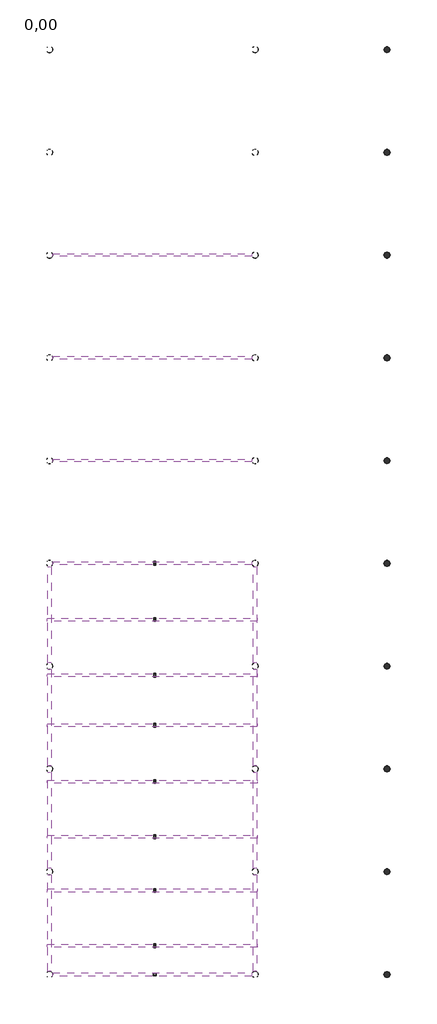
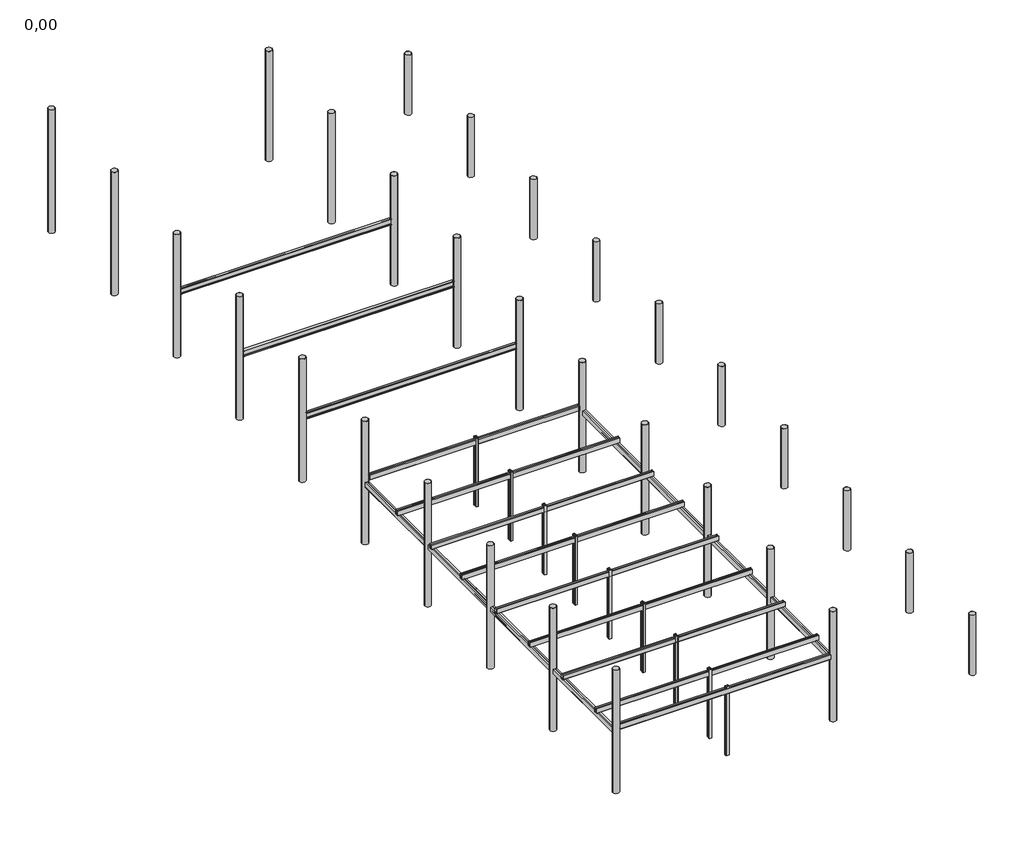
# One storey: 55 columns, 20 beams.
"""IFC4 building model written with IfcOpenShell, lengths in millimetres."""

from ifc_helpers import new_model, si_unit, origin, place, context, project, spatial, transform, mapped, element, save
from components import beam_2c_260_021a14dd, beam_2c_270e_83d6d2ef, beam_2c_270e_b8db1d55, i330pe_6d48d478, c120_7a4876d0, c120_c8b7eb78, c180_2d3c2f65, r355_6x10_7112e704, r355_6x10_451059c9, r355_6x10_06c2b0f0

model = new_model("IFC4")

# Units and contexts
model_context = context("Model", 3, world=origin())
ifc_project = project(units=[si_unit("LENGTHUNIT", "METRE", prefix="MILLI")], contexts=[model_context])

# Site, building, storey
site = spatial("IfcSite", under=ifc_project)
building = spatial("IfcBuilding", under=site)
storey = spatial("IfcBuildingStorey", under=building, Name="0,00", Elevation=0.0)

# Beams
placement = place(None, origin())
beam_2c_260_shape = beam_2c_260_021a14dd(model_context)
element("IfcBeam", 1, ObjectType="RPLN C - Ceowniki normalne_beamx2 : 2C 260", at=placement, inside=storey, context=model_context, shape_type="MappedRepresentation", body=[
    mapped(beam_2c_260_shape, transform((-2097.0111104, -35232.4816585, 3770.0), x_axis=(1.0, 0.0, 0.0), y_axis=(0.0, 1.0, 0.0), z_axis=(0.0, 0.0, 1.0))),
])
element("IfcBeam", 2, ObjectType="RPLN C - Ceowniki normalne_beamx2 : 2C 260", at=placement, inside=storey, context=model_context, shape_type="MappedRepresentation", body=[
    mapped(beam_2c_260_shape, transform((-2097.0111104, -32012.4816585, 3770.0), x_axis=(1.0, 0.0, 0.0), y_axis=(0.0, 1.0, 0.0), z_axis=(0.0, 0.0, 1.0))),
])
element("IfcBeam", 3, ObjectType="RPLN C - Ceowniki normalne_beamx2 : 2C 260", at=placement, inside=storey, context=model_context, shape_type="MappedRepresentation", body=[
    mapped(beam_2c_260_shape, transform((-2097.0111104, -28872.4816585, 3770.0), x_axis=(1.0, 0.0, 0.0), y_axis=(0.0, 1.0, 0.0), z_axis=(0.0, 0.0, 1.0))),
])
element("IfcBeam", 4, ObjectType="RPLN C - Ceowniki normalne_beamx2 : 2C 260", at=placement, inside=storey, context=model_context, shape_type="MappedRepresentation", body=[
    mapped(beam_2c_260_shape, transform((-2097.0111104, -25652.4816585, 3770.0), x_axis=(1.0, 0.0, 0.0), y_axis=(0.0, 1.0, 0.0), z_axis=(0.0, 0.0, 1.0))),
])
element("IfcBeam", 5, ObjectType="RPLN C - Ceowniki normalne_beamx2 : 2C 260", at=placement, inside=storey, context=model_context, shape_type="MappedRepresentation", body=[
    mapped(beam_2c_260_shape, transform((-2097.0111104, -22362.4816585, 3770.0), x_axis=(1.0, 0.0, 0.0), y_axis=(0.0, 1.0, 0.0), z_axis=(0.0, 0.0, 1.0))),
])
element("IfcBeam", 6, ObjectType="RPLN C - Ceowniki normalne_beamx2 : 2C 260", at=placement, inside=storey, context=model_context, shape_type="MappedRepresentation", body=[
    mapped(beam_2c_260_shape, transform((-2097.0111104, -19442.4816585, 3770.0), x_axis=(1.0, 0.0, 0.0), y_axis=(0.0, 1.0, 0.0), z_axis=(0.0, 0.0, 1.0))),
])
element("IfcBeam", 7, ObjectType="RPLN C - Ceowniki normalne_beamx2 : 2C 260", at=placement, inside=storey, context=model_context, shape_type="MappedRepresentation", body=[
    mapped(beam_2c_260_shape, transform((-2097.0111104, -16192.4816585, 3770.0), x_axis=(1.0, 0.0, 0.0), y_axis=(0.0, 1.0, 0.0), z_axis=(0.0, 0.0, 1.0))),
])
beam_2c_270e_shape = beam_2c_270e_83d6d2ef(model_context)
element("IfcBeam", 8, ObjectType="RPLN C - Ceowniki ekonomiczne_beamx2 : 2C 270E", at=placement, inside=storey, context=model_context, shape_type="MappedRepresentation", body=[
    mapped(beam_2c_270e_shape, transform((-8097.0111104, -33912.4816585, 3505.0), x_axis=(0.0, 1.0, 0.0), y_axis=(-1.0, 0.0, 0.0), z_axis=(0.0, 0.0, 1.0))),
])
element("IfcBeam", 9, ObjectType="RPLN C - Ceowniki ekonomiczne_beamx2 : 2C 270E", at=placement, inside=storey, context=model_context, shape_type="MappedRepresentation", body=[
    mapped(beam_2c_270e_shape, transform((-8097.0111104, -27912.4816585, 3505.0), x_axis=(0.0, 1.0, 0.0), y_axis=(-1.0, 0.0, 0.0), z_axis=(0.0, 0.0, 1.0))),
])
element("IfcBeam", 10, ObjectType="RPLN C - Ceowniki ekonomiczne_beamx2 : 2C 270E", at=placement, inside=storey, context=model_context, shape_type="MappedRepresentation", body=[
    mapped(beam_2c_270e_shape, transform((-8097.0111104, -21912.4816585, 3505.0), x_axis=(0.0, 1.0, 0.0), y_axis=(-1.0, 0.0, 0.0), z_axis=(0.0, 0.0, 1.0))),
])
element("IfcBeam", 11, ObjectType="RPLN C - Ceowniki ekonomiczne_beamx2 : 2C 270E", at=placement, inside=storey, context=model_context, shape_type="MappedRepresentation", body=[
    mapped(beam_2c_270e_shape, transform((-8097.0111104, -15912.4816585, 3505.0), x_axis=(0.0, 1.0, 0.0), y_axis=(-1.0, 0.0, 0.0), z_axis=(0.0, 0.0, 1.0))),
])
element("IfcBeam", 12, ObjectType="RPLN C - Ceowniki ekonomiczne_beamx2 : 2C 270E", at=placement, inside=storey, context=model_context, shape_type="MappedRepresentation", body=[
    mapped(beam_2c_270e_shape, transform((3902.9888896, -15912.4816585, 3505.0), x_axis=(0.0, -1.0, 0.0), y_axis=(1.0, 0.0, 0.0), z_axis=(0.0, 0.0, 1.0))),
])
element("IfcBeam", 13, ObjectType="RPLN C - Ceowniki ekonomiczne_beamx2 : 2C 270E", at=placement, inside=storey, context=model_context, shape_type="MappedRepresentation", body=[
    mapped(beam_2c_270e_shape, transform((3902.9888896, -21912.4816585, 3505.0), x_axis=(0.0, -1.0, 0.0), y_axis=(1.0, 0.0, 0.0), z_axis=(0.0, 0.0, 1.0))),
])
element("IfcBeam", 14, ObjectType="RPLN C - Ceowniki ekonomiczne_beamx2 : 2C 270E", at=placement, inside=storey, context=model_context, shape_type="MappedRepresentation", body=[
    mapped(beam_2c_270e_shape, transform((3902.9888896, -27912.4816585, 3505.0), x_axis=(0.0, -1.0, 0.0), y_axis=(1.0, 0.0, 0.0), z_axis=(0.0, 0.0, 1.0))),
])
element("IfcBeam", 15, ObjectType="RPLN C - Ceowniki ekonomiczne_beamx2 : 2C 270E", at=placement, inside=storey, context=model_context, shape_type="MappedRepresentation", body=[
    mapped(beam_2c_270e_shape, transform((3902.9888896, -33912.4816585, 3505.0), x_axis=(0.0, -1.0, 0.0), y_axis=(1.0, 0.0, 0.0), z_axis=(0.0, 0.0, 1.0))),
])
beam_2c_270e_2_shape = beam_2c_270e_b8db1d55(model_context)
element("IfcBeam", 16, ObjectType="RPLN C - Ceowniki ekonomiczne_beamx2 : 2C 270E", at=placement, inside=storey, context=model_context, shape_type="MappedRepresentation", body=[
    mapped(beam_2c_270e_2_shape, transform((-2097.0111104, -12912.4816585, 3765.0), x_axis=(1.0, 0.0, 0.0), y_axis=(0.0, 1.0, 0.0), z_axis=(0.0, 0.0, 1.0))),
])
element("IfcBeam", 17, ObjectType="RPLN C - Ceowniki ekonomiczne_beamx2 : 2C 270E", at=placement, inside=storey, context=model_context, shape_type="MappedRepresentation", body=[
    mapped(beam_2c_270e_2_shape, transform((-2097.0111104, -36912.4816585, 3765.0), x_axis=(-1.0, 0.0, 0.0), y_axis=(0.0, -1.0, 0.0), z_axis=(0.0, 0.0, 1.0))),
])
i330pe_shape = i330pe_6d48d478(model_context)
element("IfcBeam", 18, ObjectType="RPLN IPE - Dwuteowniki równoległościenne : I330PE", at=placement, inside=storey, context=model_context, shape_type="MappedRepresentation", body=[
    mapped(i330pe_shape, transform((-2097.0111104, -6912.4816585, 3735.0), x_axis=(1.0, 0.0, 0.0), y_axis=(0.0, 1.0, 0.0), z_axis=(0.0, 0.0, 1.0))),
])
element("IfcBeam", 19, ObjectType="RPLN IPE - Dwuteowniki równoległościenne : I330PE", at=placement, inside=storey, context=model_context, shape_type="MappedRepresentation", body=[
    mapped(i330pe_shape, transform((-2097.0111104, -912.4816585, 3735.0), x_axis=(1.0, 0.0, 0.0), y_axis=(0.0, 1.0, 0.0), z_axis=(0.0, 0.0, 1.0))),
])
element("IfcBeam", 20, ObjectType="RPLN IPE - Dwuteowniki równoległościenne : I330PE", at=placement, inside=storey, context=model_context, shape_type="MappedRepresentation", body=[
    mapped(i330pe_shape, transform((-2097.0111104, 5087.5183415, 3735.0), x_axis=(1.0, 0.0, 0.0), y_axis=(0.0, 1.0, 0.0), z_axis=(0.0, 0.0, 1.0))),
])

# Columns
c120_shape = c120_7a4876d0(model_context)
element("IfcColumn", 21, ObjectType="RPLN C - Ceowniki normalne_Column : C120", at=placement, inside=storey, context=model_context, shape_type="MappedRepresentation", body=[
    mapped(c120_shape, transform((-1957.0111104, -12818.4816585, 0.0), x_axis=(0.0, -1.0, 0.0), y_axis=(1.0, 0.0, 0.0), z_axis=(0.0, 0.0, 1.0))),
])
element("IfcColumn", 22, ObjectType="RPLN C - Ceowniki normalne_Column : C120", at=placement, inside=storey, context=model_context, shape_type="MappedRepresentation", body=[
    mapped(c120_shape, transform((-1957.0111104, -13006.4816585, 0.0), x_axis=(0.0, 1.0, 0.0), y_axis=(-1.0, 0.0, 0.0), z_axis=(0.0, 0.0, 1.0))),
])
element("IfcColumn", 23, ObjectType="RPLN C - Ceowniki normalne_Column : C120", at=placement, inside=storey, context=model_context, shape_type="MappedRepresentation", body=[
    mapped(c120_shape, transform((-1957.0111104, -16098.4816585, 0.0), x_axis=(0.0, -1.0, 0.0), y_axis=(1.0, 0.0, 0.0), z_axis=(0.0, 0.0, 1.0))),
])
element("IfcColumn", 24, ObjectType="RPLN C - Ceowniki normalne_Column : C120", at=placement, inside=storey, context=model_context, shape_type="MappedRepresentation", body=[
    mapped(c120_shape, transform((-1957.0111104, -16286.4816585, 0.0), x_axis=(0.0, 1.0, 0.0), y_axis=(-1.0, 0.0, 0.0), z_axis=(0.0, 0.0, 1.0))),
])
element("IfcColumn", 25, ObjectType="RPLN C - Ceowniki normalne_Column : C120", at=placement, inside=storey, context=model_context, shape_type="MappedRepresentation", body=[
    mapped(c120_shape, transform((-1957.0111104, -19348.4816585, 0.0), x_axis=(0.0, -1.0, 0.0), y_axis=(1.0, 0.0, 0.0), z_axis=(0.0, 0.0, 1.0))),
])
element("IfcColumn", 26, ObjectType="RPLN C - Ceowniki normalne_Column : C120", at=placement, inside=storey, context=model_context, shape_type="MappedRepresentation", body=[
    mapped(c120_shape, transform((-1957.0111104, -19536.4816585, 0.0), x_axis=(0.0, 1.0, 0.0), y_axis=(-1.0, 0.0, 0.0), z_axis=(0.0, 0.0, 1.0))),
])
element("IfcColumn", 27, ObjectType="RPLN C - Ceowniki normalne_Column : C120", at=placement, inside=storey, context=model_context, shape_type="MappedRepresentation", body=[
    mapped(c120_shape, transform((-1957.0111104, -22268.4816585, 0.0), x_axis=(0.0, -1.0, 0.0), y_axis=(1.0, 0.0, 0.0), z_axis=(0.0, 0.0, 1.0))),
])
element("IfcColumn", 28, ObjectType="RPLN C - Ceowniki normalne_Column : C120", at=placement, inside=storey, context=model_context, shape_type="MappedRepresentation", body=[
    mapped(c120_shape, transform((-1957.0111104, -22456.4816585, 0.0), x_axis=(0.0, 1.0, 0.0), y_axis=(-1.0, 0.0, 0.0), z_axis=(0.0, 0.0, 1.0))),
])
element("IfcColumn", 29, ObjectType="RPLN C - Ceowniki normalne_Column : C120", at=placement, inside=storey, context=model_context, shape_type="MappedRepresentation", body=[
    mapped(c120_shape, transform((-1957.0111104, -25558.4816585, 0.0), x_axis=(0.0, -1.0, 0.0), y_axis=(1.0, 0.0, 0.0), z_axis=(0.0, 0.0, 1.0))),
])
element("IfcColumn", 30, ObjectType="RPLN C - Ceowniki normalne_Column : C120", at=placement, inside=storey, context=model_context, shape_type="MappedRepresentation", body=[
    mapped(c120_shape, transform((-1957.0111104, -25746.4816585, 0.0), x_axis=(0.0, 1.0, 0.0), y_axis=(-1.0, 0.0, 0.0), z_axis=(0.0, 0.0, 1.0))),
])
element("IfcColumn", 31, ObjectType="RPLN C - Ceowniki normalne_Column : C120", at=placement, inside=storey, context=model_context, shape_type="MappedRepresentation", body=[
    mapped(c120_shape, transform((-1957.0111104, -28778.4816585, 0.0), x_axis=(0.0, -1.0, 0.0), y_axis=(1.0, 0.0, 0.0), z_axis=(0.0, 0.0, 1.0))),
])
element("IfcColumn", 32, ObjectType="RPLN C - Ceowniki normalne_Column : C120", at=placement, inside=storey, context=model_context, shape_type="MappedRepresentation", body=[
    mapped(c120_shape, transform((-1957.0111104, -28966.4816585, 0.0), x_axis=(0.0, 1.0, 0.0), y_axis=(-1.0, 0.0, 0.0), z_axis=(0.0, 0.0, 1.0))),
])
element("IfcColumn", 33, ObjectType="RPLN C - Ceowniki normalne_Column : C120", at=placement, inside=storey, context=model_context, shape_type="MappedRepresentation", body=[
    mapped(c120_shape, transform((-1957.0111104, -31918.4816585, 0.0), x_axis=(0.0, -1.0, 0.0), y_axis=(1.0, 0.0, 0.0), z_axis=(0.0, 0.0, 1.0))),
])
element("IfcColumn", 34, ObjectType="RPLN C - Ceowniki normalne_Column : C120", at=placement, inside=storey, context=model_context, shape_type="MappedRepresentation", body=[
    mapped(c120_shape, transform((-1957.0111104, -32106.4816585, 0.0), x_axis=(0.0, 1.0, 0.0), y_axis=(-1.0, 0.0, 0.0), z_axis=(0.0, 0.0, 1.0))),
])
element("IfcColumn", 35, ObjectType="RPLN C - Ceowniki normalne_Column : C120", at=placement, inside=storey, context=model_context, shape_type="MappedRepresentation", body=[
    mapped(c120_shape, transform((-1957.0111104, -35138.4816585, 0.0), x_axis=(0.0, -1.0, 0.0), y_axis=(1.0, 0.0, 0.0), z_axis=(0.0, 0.0, 1.0))),
])
element("IfcColumn", 36, ObjectType="RPLN C - Ceowniki normalne_Column : C120", at=placement, inside=storey, context=model_context, shape_type="MappedRepresentation", body=[
    mapped(c120_shape, transform((-1957.0111104, -35326.4816585, 0.0), x_axis=(0.0, 1.0, 0.0), y_axis=(-1.0, 0.0, 0.0), z_axis=(0.0, 0.0, 1.0))),
])
c120_2_shape = c120_c8b7eb78(model_context)
element("IfcColumn", 37, ObjectType="RPLN C - Ceowniki normalne_Column -x2 : C120", at=placement, inside=storey, context=model_context, shape_type="MappedRepresentation", body=[
    mapped(c120_2_shape, transform((-1957.0111104, -12912.4816585, 0.0), x_axis=(0.0, 1.0, 0.0), y_axis=(-1.0, 0.0, 0.0), z_axis=(0.0, 0.0, 1.0))),
])
element("IfcColumn", 38, ObjectType="RPLN C - Ceowniki normalne_Column -x2 : C120", at=placement, inside=storey, context=model_context, shape_type="MappedRepresentation", body=[
    mapped(c120_2_shape, transform((-1957.0111104, -16192.4816585, 0.0), x_axis=(0.0, -1.0, 0.0), y_axis=(1.0, 0.0, 0.0), z_axis=(0.0, 0.0, 1.0))),
])
element("IfcColumn", 39, ObjectType="RPLN C - Ceowniki normalne_Column -x2 : C120", at=placement, inside=storey, context=model_context, shape_type="MappedRepresentation", body=[
    mapped(c120_2_shape, transform((-1957.0111104, -19442.4816585, 0.0), x_axis=(0.0, -1.0, 0.0), y_axis=(1.0, 0.0, 0.0), z_axis=(0.0, 0.0, 1.0))),
])
element("IfcColumn", 40, ObjectType="RPLN C - Ceowniki normalne_Column -x2 : C120", at=placement, inside=storey, context=model_context, shape_type="MappedRepresentation", body=[
    mapped(c120_2_shape, transform((-1957.0111104, -22362.4816585, 0.0), x_axis=(0.0, -1.0, 0.0), y_axis=(1.0, 0.0, 0.0), z_axis=(0.0, 0.0, 1.0))),
])
element("IfcColumn", 41, ObjectType="RPLN C - Ceowniki normalne_Column -x2 : C120", at=placement, inside=storey, context=model_context, shape_type="MappedRepresentation", body=[
    mapped(c120_2_shape, transform((-1957.0111104, -25652.4816585, 0.0), x_axis=(0.0, -1.0, 0.0), y_axis=(1.0, 0.0, 0.0), z_axis=(0.0, 0.0, 1.0))),
])
element("IfcColumn", 42, ObjectType="RPLN C - Ceowniki normalne_Column -x2 : C120", at=placement, inside=storey, context=model_context, shape_type="MappedRepresentation", body=[
    mapped(c120_2_shape, transform((-1957.0111104, -28872.4816585, 0.0), x_axis=(0.0, -1.0, 0.0), y_axis=(1.0, 0.0, 0.0), z_axis=(0.0, 0.0, 1.0))),
])
element("IfcColumn", 43, ObjectType="RPLN C - Ceowniki normalne_Column -x2 : C120", at=placement, inside=storey, context=model_context, shape_type="MappedRepresentation", body=[
    mapped(c120_2_shape, transform((-1957.0111104, -32012.4816585, 0.0), x_axis=(0.0, -1.0, 0.0), y_axis=(1.0, 0.0, 0.0), z_axis=(0.0, 0.0, 1.0))),
])
element("IfcColumn", 44, ObjectType="RPLN C - Ceowniki normalne_Column -x2 : C120", at=placement, inside=storey, context=model_context, shape_type="MappedRepresentation", body=[
    mapped(c120_2_shape, transform((-1957.0111104, -35232.4816585, 0.0), x_axis=(0.0, -1.0, 0.0), y_axis=(1.0, 0.0, 0.0), z_axis=(0.0, 0.0, 1.0))),
])
c180_shape = c180_2d3c2f65(model_context)
element("IfcColumn", 45, ObjectType="RPLN C - Ceowniki normalne_Column -x2 : C180", at=placement, inside=storey, context=model_context, shape_type="MappedRepresentation", body=[
    mapped(c180_shape, transform((-1957.0111104, -36912.4816585, 0.0), x_axis=(0.0, 1.0, 0.0), y_axis=(-1.0, 0.0, 0.0), z_axis=(0.0, 0.0, 1.0))),
])
r355_6x10_shape = r355_6x10_7112e704(model_context)
element("IfcColumn", 46, ObjectType="RPLN RO - Rury okragle_Column : R355.6x10", at=placement, inside=storey, context=model_context, shape_type="MappedRepresentation", body=[
    mapped(r355_6x10_shape, transform((11602.963474, -36912.4816585, 0.0), x_axis=(-1.0, 0.0, 0.0), y_axis=(0.0, -1.0, 0.0), z_axis=(0.0, 0.0, 1.0))),
])
element("IfcColumn", 47, ObjectType="RPLN RO - Rury okragle_Column : R355.6x10", at=placement, inside=storey, context=model_context, shape_type="MappedRepresentation", body=[
    mapped(r355_6x10_shape, transform((11602.963474, -30912.4816585, 0.0), x_axis=(-1.0, 0.0, 0.0), y_axis=(0.0, -1.0, 0.0), z_axis=(0.0, 0.0, 1.0))),
])
element("IfcColumn", 48, ObjectType="RPLN RO - Rury okragle_Column : R355.6x10", at=placement, inside=storey, context=model_context, shape_type="MappedRepresentation", body=[
    mapped(r355_6x10_shape, transform((11602.963474, -24912.4816585, 0.0), x_axis=(-1.0, 0.0, 0.0), y_axis=(0.0, -1.0, 0.0), z_axis=(0.0, 0.0, 1.0))),
])
element("IfcColumn", 49, ObjectType="RPLN RO - Rury okragle_Column : R355.6x10", at=placement, inside=storey, context=model_context, shape_type="MappedRepresentation", body=[
    mapped(r355_6x10_shape, transform((11602.963474, -18912.4816585, 0.0), x_axis=(-1.0, 0.0, 0.0), y_axis=(0.0, -1.0, 0.0), z_axis=(0.0, 0.0, 1.0))),
])
element("IfcColumn", 50, ObjectType="RPLN RO - Rury okragle_Column : R355.6x10", at=placement, inside=storey, context=model_context, shape_type="MappedRepresentation", body=[
    mapped(r355_6x10_shape, transform((11602.963474, -12912.4816585, 0.0), x_axis=(-1.0, 0.0, 0.0), y_axis=(0.0, -1.0, 0.0), z_axis=(0.0, 0.0, 1.0))),
])
element("IfcColumn", 51, ObjectType="RPLN RO - Rury okragle_Column : R355.6x10", at=placement, inside=storey, context=model_context, shape_type="MappedRepresentation", body=[
    mapped(r355_6x10_shape, transform((11602.963474, -6912.4816585, 0.0), x_axis=(-1.0, 0.0, 0.0), y_axis=(0.0, -1.0, 0.0), z_axis=(0.0, 0.0, 1.0))),
])
element("IfcColumn", 52, ObjectType="RPLN RO - Rury okragle_Column : R355.6x10", at=placement, inside=storey, context=model_context, shape_type="MappedRepresentation", body=[
    mapped(r355_6x10_shape, transform((11602.963474, -912.4816585, 0.0), x_axis=(-1.0, 0.0, 0.0), y_axis=(0.0, -1.0, 0.0), z_axis=(0.0, 0.0, 1.0))),
])
element("IfcColumn", 53, ObjectType="RPLN RO - Rury okragle_Column : R355.6x10", at=placement, inside=storey, context=model_context, shape_type="MappedRepresentation", body=[
    mapped(r355_6x10_shape, transform((11602.963474, 5087.5183415, 0.0), x_axis=(1.0, 0.0, 0.0), y_axis=(0.0, 1.0, 0.0), z_axis=(0.0, 0.0, 1.0))),
])
element("IfcColumn", 54, ObjectType="RPLN RO - Rury okragle_Column : R355.6x10", at=placement, inside=storey, context=model_context, shape_type="MappedRepresentation", body=[
    mapped(r355_6x10_shape, transform((11602.963474, 11087.5183415, 0.0), x_axis=(-1.0, 0.0, 0.0), y_axis=(0.0, -1.0, 0.0), z_axis=(0.0, 0.0, 1.0))),
])
element("IfcColumn", 55, ObjectType="RPLN RO - Rury okragle_Column : R355.6x10", at=placement, inside=storey, context=model_context, shape_type="MappedRepresentation", body=[
    mapped(r355_6x10_shape, transform((11602.963474, 17087.5183415, 0.0), x_axis=(-1.0, 0.0, 0.0), y_axis=(0.0, -1.0, 0.0), z_axis=(0.0, 0.0, 1.0))),
])
r355_6x10_2_shape = r355_6x10_451059c9(model_context)
element("IfcColumn", 56, ObjectType="RPLN RO - Rury okragle_Column : R355.6x10", at=placement, inside=storey, context=model_context, shape_type="MappedRepresentation", body=[
    mapped(r355_6x10_2_shape, transform((3902.9888896, -36912.4816585, 0.0), x_axis=(-1.0, 0.0, 0.0), y_axis=(0.0, -1.0, 0.0), z_axis=(0.0, 0.0, 1.0))),
])
element("IfcColumn", 57, ObjectType="RPLN RO - Rury okragle_Column : R355.6x10", at=placement, inside=storey, context=model_context, shape_type="MappedRepresentation", body=[
    mapped(r355_6x10_2_shape, transform((3902.9888896, -30912.4816585, 0.0), x_axis=(-1.0, 0.0, 0.0), y_axis=(0.0, -1.0, 0.0), z_axis=(0.0, 0.0, 1.0))),
])
element("IfcColumn", 58, ObjectType="RPLN RO - Rury okragle_Column : R355.6x10", at=placement, inside=storey, context=model_context, shape_type="MappedRepresentation", body=[
    mapped(r355_6x10_2_shape, transform((3902.9888896, -24912.4816585, 0.0), x_axis=(-1.0, 0.0, 0.0), y_axis=(0.0, -1.0, 0.0), z_axis=(0.0, 0.0, 1.0))),
])
element("IfcColumn", 59, ObjectType="RPLN RO - Rury okragle_Column : R355.6x10", at=placement, inside=storey, context=model_context, shape_type="MappedRepresentation", body=[
    mapped(r355_6x10_2_shape, transform((3902.9888896, -18912.4816585, 0.0), x_axis=(-1.0, 0.0, 0.0), y_axis=(0.0, -1.0, 0.0), z_axis=(0.0, 0.0, 1.0))),
])
element("IfcColumn", 60, ObjectType="RPLN RO - Rury okragle_Column : R355.6x10", at=placement, inside=storey, context=model_context, shape_type="MappedRepresentation", body=[
    mapped(r355_6x10_2_shape, transform((3902.9888896, -12912.4816585, 0.0), x_axis=(-1.0, 0.0, 0.0), y_axis=(0.0, -1.0, 0.0), z_axis=(0.0, 0.0, 1.0))),
])
element("IfcColumn", 61, ObjectType="RPLN RO - Rury okragle_Column : R355.6x10", at=placement, inside=storey, context=model_context, shape_type="MappedRepresentation", body=[
    mapped(r355_6x10_2_shape, transform((3902.9888896, -6912.4816585, 0.0), x_axis=(-1.0, 0.0, 0.0), y_axis=(0.0, -1.0, 0.0), z_axis=(0.0, 0.0, 1.0))),
])
element("IfcColumn", 62, ObjectType="RPLN RO - Rury okragle_Column : R355.6x10", at=placement, inside=storey, context=model_context, shape_type="MappedRepresentation", body=[
    mapped(r355_6x10_2_shape, transform((3902.9888896, -912.4816585, 0.0), x_axis=(-1.0, 0.0, 0.0), y_axis=(0.0, -1.0, 0.0), z_axis=(0.0, 0.0, 1.0))),
])
element("IfcColumn", 63, ObjectType="RPLN RO - Rury okragle_Column : R355.6x10", at=placement, inside=storey, context=model_context, shape_type="MappedRepresentation", body=[
    mapped(r355_6x10_2_shape, transform((3902.9888896, 5087.5183415, 0.0), x_axis=(1.0, 0.0, 0.0), y_axis=(0.0, 1.0, 0.0), z_axis=(0.0, 0.0, 1.0))),
])
element("IfcColumn", 64, ObjectType="RPLN RO - Rury okragle_Column : R355.6x10", at=placement, inside=storey, context=model_context, shape_type="MappedRepresentation", body=[
    mapped(r355_6x10_2_shape, transform((3902.9888896, 11087.5183415, 0.0), x_axis=(-1.0, 0.0, 0.0), y_axis=(0.0, -1.0, 0.0), z_axis=(0.0, 0.0, 1.0))),
])
element("IfcColumn", 65, ObjectType="RPLN RO - Rury okragle_Column : R355.6x10", at=placement, inside=storey, context=model_context, shape_type="MappedRepresentation", body=[
    mapped(r355_6x10_2_shape, transform((3902.9888896, 17087.5183415, 0.0), x_axis=(-1.0, 0.0, 0.0), y_axis=(0.0, -1.0, 0.0), z_axis=(0.0, 0.0, 1.0))),
])
r355_6x10_3_shape = r355_6x10_06c2b0f0(model_context)
element("IfcColumn", 66, ObjectType="RPLN RO - Rury okragle_Column : R355.6x10", at=placement, inside=storey, context=model_context, shape_type="MappedRepresentation", body=[
    mapped(r355_6x10_3_shape, transform((-8097.0111104, -36912.4816585, 0.0), x_axis=(-1.0, 0.0, 0.0), y_axis=(0.0, -1.0, 0.0), z_axis=(0.0, 0.0, 1.0))),
])
element("IfcColumn", 67, ObjectType="RPLN RO - Rury okragle_Column : R355.6x10", at=placement, inside=storey, context=model_context, shape_type="MappedRepresentation", body=[
    mapped(r355_6x10_3_shape, transform((-8097.0111104, -30912.4816585, 0.0), x_axis=(-1.0, 0.0, 0.0), y_axis=(0.0, -1.0, 0.0), z_axis=(0.0, 0.0, 1.0))),
])
element("IfcColumn", 68, ObjectType="RPLN RO - Rury okragle_Column : R355.6x10", at=placement, inside=storey, context=model_context, shape_type="MappedRepresentation", body=[
    mapped(r355_6x10_3_shape, transform((-8097.0111104, -24912.4816585, 0.0), x_axis=(-1.0, 0.0, 0.0), y_axis=(0.0, -1.0, 0.0), z_axis=(0.0, 0.0, 1.0))),
])
element("IfcColumn", 69, ObjectType="RPLN RO - Rury okragle_Column : R355.6x10", at=placement, inside=storey, context=model_context, shape_type="MappedRepresentation", body=[
    mapped(r355_6x10_3_shape, transform((-8097.0111104, -18912.4816585, 0.0), x_axis=(-1.0, 0.0, 0.0), y_axis=(0.0, -1.0, 0.0), z_axis=(0.0, 0.0, 1.0))),
])
element("IfcColumn", 70, ObjectType="RPLN RO - Rury okragle_Column : R355.6x10", at=placement, inside=storey, context=model_context, shape_type="MappedRepresentation", body=[
    mapped(r355_6x10_3_shape, transform((-8097.0111104, -12912.4816585, 0.0), x_axis=(-1.0, 0.0, 0.0), y_axis=(0.0, -1.0, 0.0), z_axis=(0.0, 0.0, 1.0))),
])
element("IfcColumn", 71, ObjectType="RPLN RO - Rury okragle_Column : R355.6x10", at=placement, inside=storey, context=model_context, shape_type="MappedRepresentation", body=[
    mapped(r355_6x10_3_shape, transform((-8097.0111104, -6912.4816585, 0.0), x_axis=(-1.0, 0.0, 0.0), y_axis=(0.0, -1.0, 0.0), z_axis=(0.0, 0.0, 1.0))),
])
element("IfcColumn", 72, ObjectType="RPLN RO - Rury okragle_Column : R355.6x10", at=placement, inside=storey, context=model_context, shape_type="MappedRepresentation", body=[
    mapped(r355_6x10_3_shape, transform((-8097.0111104, -912.4816585, 0.0), x_axis=(-1.0, 0.0, 0.0), y_axis=(0.0, -1.0, 0.0), z_axis=(0.0, 0.0, 1.0))),
])
element("IfcColumn", 73, ObjectType="RPLN RO - Rury okragle_Column : R355.6x10", at=placement, inside=storey, context=model_context, shape_type="MappedRepresentation", body=[
    mapped(r355_6x10_3_shape, transform((-8097.0111104, 5087.5183415, 0.0), x_axis=(1.0, 0.0, 0.0), y_axis=(0.0, 1.0, 0.0), z_axis=(0.0, 0.0, 1.0))),
])
element("IfcColumn", 74, ObjectType="RPLN RO - Rury okragle_Column : R355.6x10", at=placement, inside=storey, context=model_context, shape_type="MappedRepresentation", body=[
    mapped(r355_6x10_3_shape, transform((-8097.0111104, 11087.5183415, 0.0), x_axis=(-1.0, 0.0, 0.0), y_axis=(0.0, -1.0, 0.0), z_axis=(0.0, 0.0, 1.0))),
])
element("IfcColumn", 75, ObjectType="RPLN RO - Rury okragle_Column : R355.6x10", at=placement, inside=storey, context=model_context, shape_type="MappedRepresentation", body=[
    mapped(r355_6x10_3_shape, transform((-8097.0111104, 17087.5183415, 0.0), x_axis=(-1.0, 0.0, 0.0), y_axis=(0.0, -1.0, 0.0), z_axis=(0.0, 0.0, 1.0))),
])

save(model, "model.ifc")
